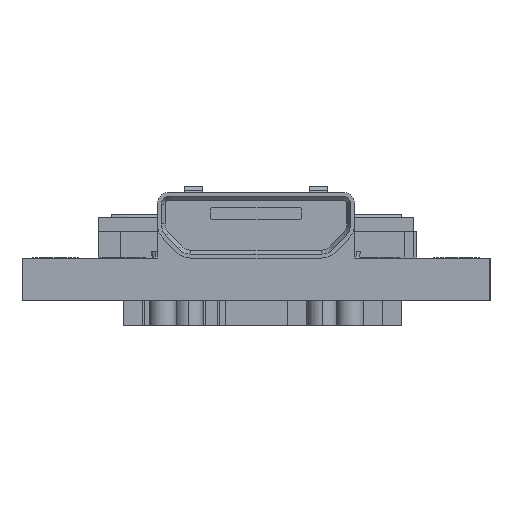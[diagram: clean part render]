
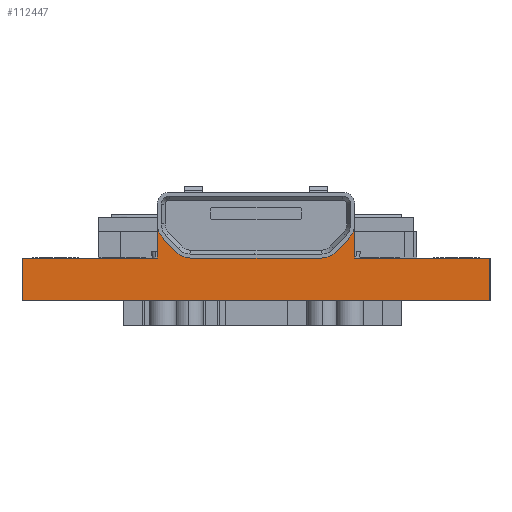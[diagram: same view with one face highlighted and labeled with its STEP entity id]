
A CAD part, left-side view. The second image highlights one B-rep face of the part: STEP entity #112447.
In plain terms, the highlighted planar face has unit normal (-1, 0, 0).
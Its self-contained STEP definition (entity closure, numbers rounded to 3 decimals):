
#1279 = CARTESIAN_POINT ( 'NONE',  ( -30.48, 8.89, 1.599 ) ) ;
#4455 = CARTESIAN_POINT ( 'NONE',  ( -30.48, 3.75, 2.898 ) ) ;
#8340 = CARTESIAN_POINT ( 'NONE',  ( -30.48, 2.48, 2.399 ) ) ;
#9238 = DIRECTION ( 'NONE',  ( 0., 0., -1. ) ) ;
#11251 = EDGE_CURVE ( 'NONE', #12727, #133364, #103983, .T. ) ;
#12727 = VERTEX_POINT ( 'NONE', #70184 ) ;
#12903 = CARTESIAN_POINT ( 'NONE',  ( -30.48, 8.89, 1.599 ) ) ;
#13244 = CARTESIAN_POINT ( 'NONE',  ( -30.48, 3.75, 1.599 ) ) ;
#14071 = CARTESIAN_POINT ( 'NONE',  ( -30.48, 8.89, 1.599 ) ) ;
#15319 = VECTOR ( 'NONE', #124411, 1000. ) ;
#17520 = CARTESIAN_POINT ( 'NONE',  ( -30.48, 8.89, 1.599 ) ) ;
#18585 = CARTESIAN_POINT ( 'NONE',  ( -30.48, -2.95, 2.898 ) ) ;
#20373 = AXIS2_PLACEMENT_3D ( 'NONE', #125950, #138039, #179772 ) ;
#22467 = ORIENTED_EDGE ( 'NONE', *, *, #110946, .F. ) ;
#23411 = ORIENTED_EDGE ( 'NONE', *, *, #154896, .F. ) ;
#24654 = CARTESIAN_POINT ( 'NONE',  ( -30.48, -3.062, 1.85 ) ) ;
#25592 = EDGE_CURVE ( 'NONE', #28564, #99682, #45263, .T. ) ;
#27853 = VERTEX_POINT ( 'NONE', #48737 ) ;
#28158 = CARTESIAN_POINT ( 'NONE',  ( -30.48, 8.89, 0.001 ) ) ;
#28564 = VERTEX_POINT ( 'NONE', #13244 ) ;
#28714 = CARTESIAN_POINT ( 'NONE',  ( -30.48, 3.062, 1.85 ) ) ;
#29011 = LINE ( 'NONE', #138464, #113556 ) ;
#31338 = VECTOR ( 'NONE', #127557, 1000. ) ;
#32556 = VERTEX_POINT ( 'NONE', #117941 ) ;
#34162 = LINE ( 'NONE', #17520, #42139 ) ;
#35233 = ORIENTED_EDGE ( 'NONE', *, *, #86220, .F. ) ;
#36880 = CARTESIAN_POINT ( 'NONE',  ( -30.48, -3.532, 2.349 ) ) ;
#37594 = CIRCLE ( 'NONE', #111657, 0.8 ) ;
#40165 = LINE ( 'NONE', #182849, #154167 ) ;
#40692 = VERTEX_POINT ( 'NONE', #60858 ) ;
#42139 = VECTOR ( 'NONE', #90657, 1000. ) ;
#45263 = LINE ( 'NONE', #4455, #61135 ) ;
#47763 = LINE ( 'NONE', #134873, #104488 ) ;
#48482 = VECTOR ( 'NONE', #9238, 1000. ) ;
#48737 = CARTESIAN_POINT ( 'NONE',  ( -30.48, 2.48, 1.599 ) ) ;
#50625 = EDGE_LOOP ( 'NONE', ( #69995, #22467, #156957, #56852, #139596, #114383, #35233, #66342, #169259, #69141, #147960, #98353, #69236, #23411 ) ) ;
#51535 = DIRECTION ( 'NONE',  ( 0., 0., -1. ) ) ;
#53380 = VERTEX_POINT ( 'NONE', #28158 ) ;
#55055 = DIRECTION ( 'NONE',  ( 0., 1., 0. ) ) ;
#56304 = VECTOR ( 'NONE', #51535, 1000. ) ;
#56852 = ORIENTED_EDGE ( 'NONE', *, *, #138942, .F. ) ;
#57595 = LINE ( 'NONE', #14071, #15319 ) ;
#58026 = CARTESIAN_POINT ( 'NONE',  ( -30.48, 8.89, 1.599 ) ) ;
#60858 = CARTESIAN_POINT ( 'NONE',  ( -30.48, -3.75, 2.898 ) ) ;
#61135 = VECTOR ( 'NONE', #173166, 1000. ) ;
#61237 = VERTEX_POINT ( 'NONE', #36880 ) ;
#63157 = CARTESIAN_POINT ( 'NONE',  ( -30.48, 3.532, 2.349 ) ) ;
#64677 = EDGE_CURVE ( 'NONE', #53380, #182867, #29011, .T. ) ;
#64904 = EDGE_CURVE ( 'NONE', #155229, #53380, #124119, .T. ) ;
#66342 = ORIENTED_EDGE ( 'NONE', *, *, #74763, .F. ) ;
#66658 = DIRECTION ( 'NONE',  ( 0., 0., -1. ) ) ;
#67133 = EDGE_CURVE ( 'NONE', #61237, #40692, #87782, .T. ) ;
#68114 = LINE ( 'NONE', #124699, #56304 ) ;
#69141 = ORIENTED_EDGE ( 'NONE', *, *, #25592, .F. ) ;
#69236 = ORIENTED_EDGE ( 'NONE', *, *, #64677, .T. ) ;
#69995 = ORIENTED_EDGE ( 'NONE', *, *, #148860, .F. ) ;
#70184 = CARTESIAN_POINT ( 'NONE',  ( -30.48, -2.48, 1.599 ) ) ;
#74763 = EDGE_CURVE ( 'NONE', #106894, #144026, #47763, .T. ) ;
#79085 = EDGE_CURVE ( 'NONE', #27853, #12727, #57595, .T. ) ;
#85147 = DIRECTION ( 'NONE',  ( 0., 0., -1. ) ) ;
#85518 = DIRECTION ( 'NONE',  ( 0., -1., 0. ) ) ;
#86220 = EDGE_CURVE ( 'NONE', #144026, #27853, #37594, .T. ) ;
#87782 = CIRCLE ( 'NONE', #96671, 0.8 ) ;
#90657 = DIRECTION ( 'NONE',  ( 0., -1., 0. ) ) ;
#93556 = DIRECTION ( 'NONE',  ( -1., 0., 0. ) ) ;
#96671 = AXIS2_PLACEMENT_3D ( 'NONE', #18585, #130717, #172466 ) ;
#97658 = DIRECTION ( 'NONE',  ( 1., 0., 0. ) ) ;
#98353 = ORIENTED_EDGE ( 'NONE', *, *, #64904, .T. ) ;
#99682 = VERTEX_POINT ( 'NONE', #133036 ) ;
#100257 = CIRCLE ( 'NONE', #20373, 0.8 ) ;
#103983 = CIRCLE ( 'NONE', #121753, 0.8 ) ;
#104488 = VECTOR ( 'NONE', #175685, 1000. ) ;
#106894 = VERTEX_POINT ( 'NONE', #63157 ) ;
#108104 = EDGE_CURVE ( 'NONE', #99682, #106894, #100257, .T. ) ;
#110946 = EDGE_CURVE ( 'NONE', #40692, #159062, #68114, .T. ) ;
#111657 = AXIS2_PLACEMENT_3D ( 'NONE', #8340, #93556, #66658 ) ;
#112447 = ADVANCED_FACE ( 'NONE', ( #140329 ), #170867, .F. ) ;
#112826 = CARTESIAN_POINT ( 'NONE',  ( -30.48, -8.89, 1.599 ) ) ;
#113556 = VECTOR ( 'NONE', #85518, 1000. ) ;
#114383 = ORIENTED_EDGE ( 'NONE', *, *, #79085, .F. ) ;
#116957 = CARTESIAN_POINT ( 'NONE',  ( -30.48, -3.75, 1.599 ) ) ;
#117534 = DIRECTION ( 'NONE',  ( -1., 0., 0. ) ) ;
#117941 = CARTESIAN_POINT ( 'NONE',  ( -30.48, -8.89, 1.599 ) ) ;
#121753 = AXIS2_PLACEMENT_3D ( 'NONE', #173217, #117534, #85147 ) ;
#124119 = LINE ( 'NONE', #12903, #48482 ) ;
#124411 = DIRECTION ( 'NONE',  ( 0., -1., 0. ) ) ;
#124699 = CARTESIAN_POINT ( 'NONE',  ( -30.48, -3.75, 2.049 ) ) ;
#125950 = CARTESIAN_POINT ( 'NONE',  ( -30.48, 2.95, 2.898 ) ) ;
#127557 = DIRECTION ( 'NONE',  ( 0., -1., 0. ) ) ;
#130717 = DIRECTION ( 'NONE',  ( -1., 0., 0. ) ) ;
#133036 = CARTESIAN_POINT ( 'NONE',  ( -30.48, 3.75, 2.898 ) ) ;
#133364 = VERTEX_POINT ( 'NONE', #24654 ) ;
#134873 = CARTESIAN_POINT ( 'NONE',  ( -30.48, 3.062, 1.85 ) ) ;
#138039 = DIRECTION ( 'NONE',  ( -1., 0., 0. ) ) ;
#138464 = CARTESIAN_POINT ( 'NONE',  ( -30.48, 8.89, 0.001 ) ) ;
#138942 = EDGE_CURVE ( 'NONE', #133364, #61237, #40165, .T. ) ;
#139596 = ORIENTED_EDGE ( 'NONE', *, *, #11251, .F. ) ;
#139768 = LINE ( 'NONE', #112826, #182488 ) ;
#140329 = FACE_OUTER_BOUND ( 'NONE', #50625, .T. ) ;
#144026 = VERTEX_POINT ( 'NONE', #28714 ) ;
#146623 = CARTESIAN_POINT ( 'NONE',  ( -30.48, 8.89, 1.599 ) ) ;
#147960 = ORIENTED_EDGE ( 'NONE', *, *, #182989, .F. ) ;
#148860 = EDGE_CURVE ( 'NONE', #159062, #32556, #167478, .T. ) ;
#154167 = VECTOR ( 'NONE', #179248, 1000. ) ;
#154896 = EDGE_CURVE ( 'NONE', #32556, #182867, #139768, .T. ) ;
#155229 = VERTEX_POINT ( 'NONE', #146623 ) ;
#156957 = ORIENTED_EDGE ( 'NONE', *, *, #67133, .F. ) ;
#159062 = VERTEX_POINT ( 'NONE', #116957 ) ;
#166044 = AXIS2_PLACEMENT_3D ( 'NONE', #1279, #97658, #55055 ) ;
#167478 = LINE ( 'NONE', #58026, #31338 ) ;
#169259 = ORIENTED_EDGE ( 'NONE', *, *, #108104, .F. ) ;
#170867 = PLANE ( 'NONE',  #166044 ) ;
#172466 = DIRECTION ( 'NONE',  ( 0., 0., -1. ) ) ;
#173166 = DIRECTION ( 'NONE',  ( 0., 0., 1. ) ) ;
#173217 = CARTESIAN_POINT ( 'NONE',  ( -30.48, -2.48, 2.399 ) ) ;
#175685 = DIRECTION ( 'NONE',  ( 0., -0.686, -0.728 ) ) ;
#179248 = DIRECTION ( 'NONE',  ( 0., -0.686, 0.728 ) ) ;
#179772 = DIRECTION ( 'NONE',  ( 0., 0., -1. ) ) ;
#182405 = DIRECTION ( 'NONE',  ( 0., 0., -1. ) ) ;
#182488 = VECTOR ( 'NONE', #182405, 1000. ) ;
#182849 = CARTESIAN_POINT ( 'NONE',  ( -30.48, -3.532, 2.349 ) ) ;
#182867 = VERTEX_POINT ( 'NONE', #183455 ) ;
#182989 = EDGE_CURVE ( 'NONE', #155229, #28564, #34162, .T. ) ;
#183455 = CARTESIAN_POINT ( 'NONE',  ( -30.48, -8.89, 0.001 ) ) ;
